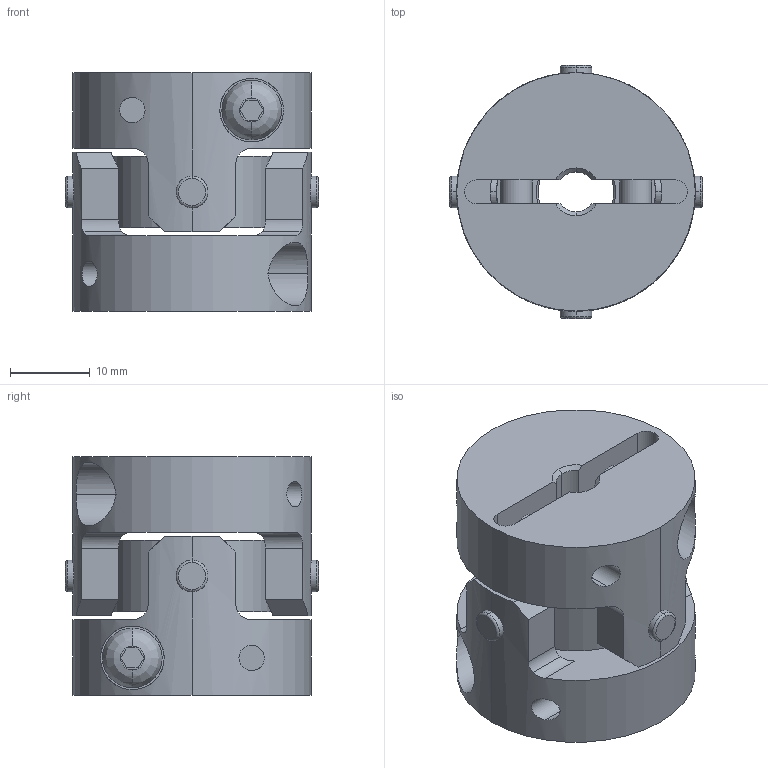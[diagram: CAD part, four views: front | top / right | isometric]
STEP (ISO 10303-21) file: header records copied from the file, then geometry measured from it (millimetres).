
FILE_DESCRIPTION((''),'2;1');
FILE_NAME('UA-30C-5×9.525.stp','2013-11-12T14:24:58',(''),(''),'AutoCAD STEP 2000i','AutoCAD 2000i',', , ');
FILE_SCHEMA(('CONFIG_CONTROL_DESIGN'));
Length unit declared in the file: millimetre
Products named in the file (6): UA-30C-6×6; 忣兜1; UA-3002-D06-1; BTN-M4; UA-3002-D06; UA30-SEN
Assembly tree (6 placements, depth 3):
  UA-30C-6×6
    忣兜1
    UA-3002-D06-1
      BTN-M4
    UA-3002-D06
      BTN-M4
    UA30-SEN
Bounding box: 31.82 x 31.82 x 30 mm (x, y, z)
Volume: 14741.7 mm3; surface area: 8887.5 mm2
Topology: 1 solids, 1 shells, 206 faces, 554 edges, 364 vertices
Faces by surface type: cylinder 96, plane 78, cone 16, bspline 8, torus 8
Entity records: 8479 total; most frequent: CARTESIAN_POINT 3163, ORIENTED_EDGE 1108, DIRECTION 1064, EDGE_CURVE 554, AXIS2_PLACEMENT_3D 409, VERTEX_POINT 364, VECTOR 246, LINE 246
